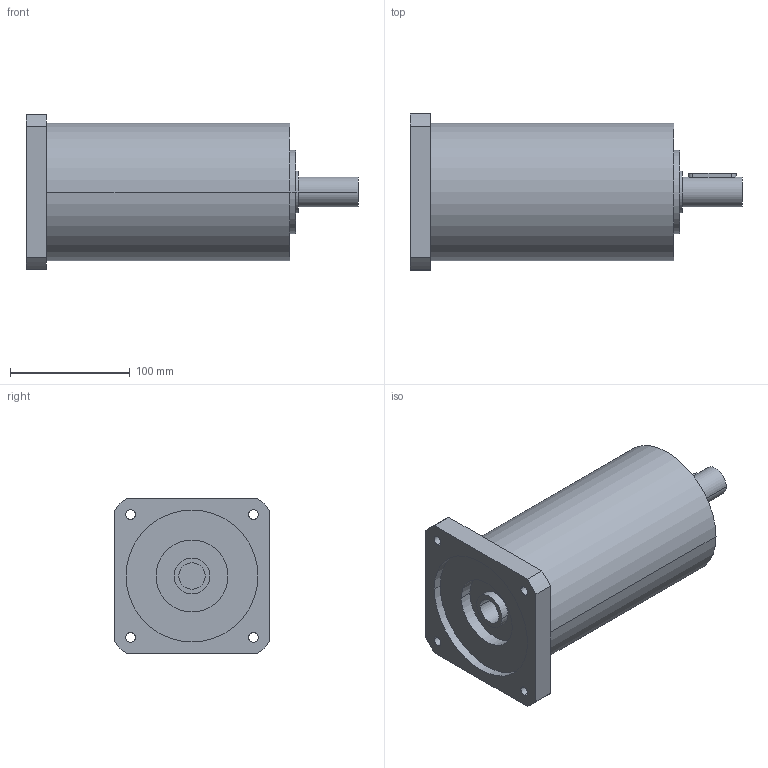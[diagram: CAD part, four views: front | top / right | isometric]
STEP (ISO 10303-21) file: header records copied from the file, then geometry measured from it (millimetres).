
FILE_DESCRIPTION(('CoCreate Modeling STEP Export'),'2;1');
FILE_NAME('GPR125_ig-48-64-80-100-140-196-245-343_25_B14_22_P12.stp','2014-08-26T14:22:12',(''),(''),'CoCreate Modeling STEP processor for AP214 (Solid Model)','CoCreate Modeling 16.00C 25-Feb-2009 (C) Parametric Technology GmbH','');
FILE_SCHEMA(('AUTOMOTIVE_DESIGN { 1 0 10303 214 1 1 1 1 }'));
Length unit declared in the file: millimetre
Products named in the file (2): GPR125_ig-48-64-80-100-140-196-245-343_25_B14_22_P12
Assembly tree (1 placements, depth 2):
  GPR125_ig-48-64-80-100-140-196-245-343_25_B14_22_P12
    GPR125_ig-48-64-80-100-140-196-245-343_25_B14_22_P12
Bounding box: 277 x 130 x 130 mm (x, y, z)
Volume: 2319431.3 mm3; surface area: 133677.1 mm2
Topology: 1 solids, 1 shells, 65 faces, 178 edges, 126 vertices
Faces by surface type: cylinder 40, plane 21, cone 4
Entity records: 1843 total; most frequent: ORIENTED_EDGE 352, CARTESIAN_POINT 349, DIRECTION 248, EDGE_CURVE 176, VERTEX_POINT 126, AXIS2_PLACEMENT_3D 93, EDGE_LOOP 86, FACE_OUTER_BOUND 65
